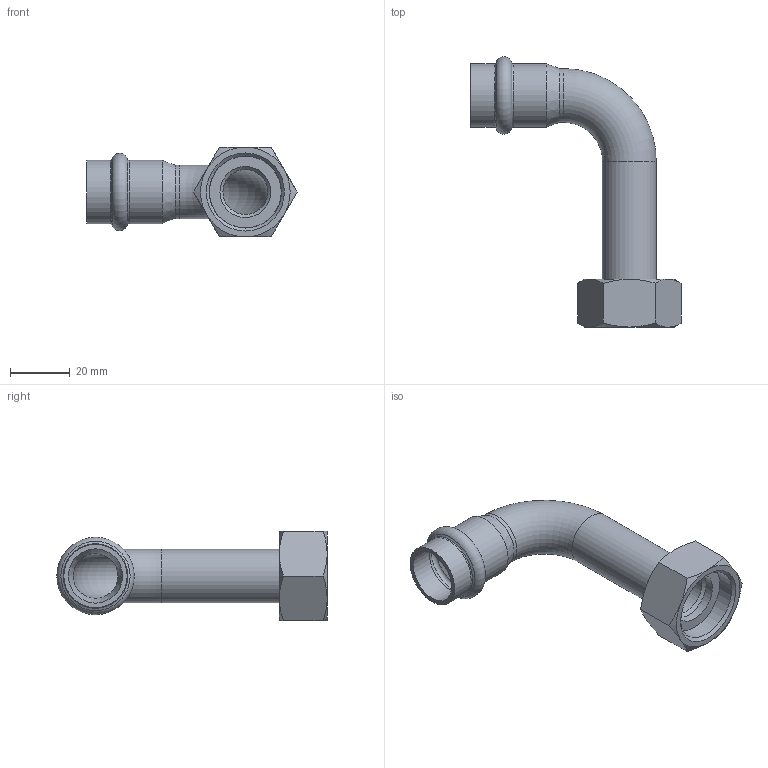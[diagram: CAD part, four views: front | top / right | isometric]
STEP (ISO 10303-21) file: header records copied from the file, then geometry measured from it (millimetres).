
FILE_DESCRIPTION((''),'2;1');
FILE_NAME('G:\Nirosan-Schmiedefeld\Technics\CAD\Bauteile VA\018\69002m1834(3).stp','2011-06-30T14:40:13',('herberg'),(''),'Autodesk Inventor 2009','Autodesk Inventor 2009','');
FILE_SCHEMA(('AUTOMOTIVE_DESIGN { 1 0 10303 214 1 1 1 1 }'));
Length unit declared in the file: millimetre
Products named in the file (5): 69002m1834(3); 69001A18(1); R1834(0); FD_2417_EPDM(0); SM1834(2)
Assembly tree (4 placements, depth 2):
  69002m1834(3)
    69001A18(1)
    R1834(0)
    FD_2417_EPDM(0)
    SM1834(2)
Bounding box: 70.32 x 90.44 x 30 mm (x, y, z)
Volume: 15931.1 mm3; surface area: 17589.3 mm2
Topology: 4 solids, 4 shells, 58 faces, 118 edges, 70 vertices
Faces by surface type: cone 18, plane 15, cylinder 13, bspline 8, torus 4
Full cylindrical faces by diameter (mm): 15 x3, 17 x1, 18 x3, 18.15 x2, 21.15 x2, 23 x1, 24 x1
Entity records: 1666 total; most frequent: CARTESIAN_POINT 516, DIRECTION 226, ORIENTED_EDGE 162, AXIS2_PLACEMENT_3D 110, EDGE_LOOP 98, EDGE_CURVE 81, VERTEX_POINT 63, FACE_OUTER_BOUND 58
